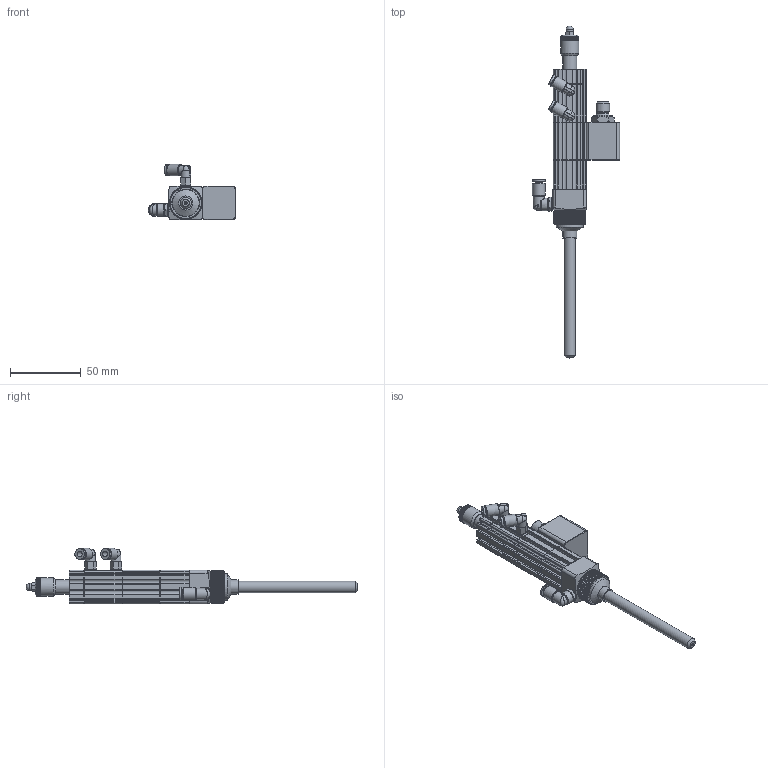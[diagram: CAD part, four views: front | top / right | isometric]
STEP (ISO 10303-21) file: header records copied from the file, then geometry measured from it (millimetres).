
FILE_DESCRIPTION (( 'STEP AP214' ), '1' );
FILE_NAME ('DAVS-100-100-F.STEP', '2025-02-03T07:33:07', ( '' ), ( '' ), 'SwSTEP 2.0', 'SolidWorks 2024', '' );
FILE_SCHEMA (( 'AUTOMOTIVE_DESIGN' ));
Length unit declared in the file: millimetre
Products named in the file (1): DAVS-100-100-F
Bounding box: 61.7 x 235.18 x 39.26 mm (x, y, z)
Volume: 71277.7 mm3; surface area: 32163.2 mm2
Topology: 4 solids, 4 shells, 1790 faces, 4294 edges, 2433 vertices
Faces by surface type: plane 1011, cone 453, cylinder 309, bspline 12, sphere 5
Full cylindrical faces by diameter (mm): 0.5 x1, 1.6 x1, 2.5 x1, 3 x1, 3.3 x3, 3.9 x1, 4 x3, 4.15 x1, 4.2 x1, 4.8 x2, 5 x4, 5.2 x1, 5.5 x2, 7 x2, 7.7 x2, 8 x3, 8.2 x2, 9 x2, 9.1 x1, 9.6 x1, 10 x2, 13 x1, 13.8 x1, 19 x1, 19.2 x1, 22 x1
Entity records: 50682 total; most frequent: CARTESIAN_POINT 12024, ORIENTED_EDGE 8150, DIRECTION 7758, EDGE_CURVE 4075, AXIS2_PLACEMENT_3D 2825, VERTEX_POINT 2397, LINE 2108, VECTOR 2108
